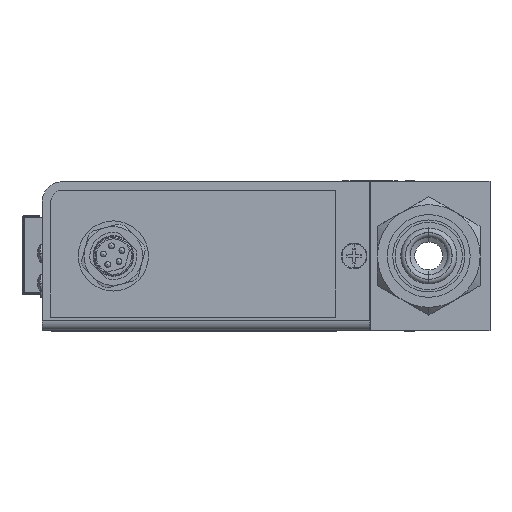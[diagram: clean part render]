
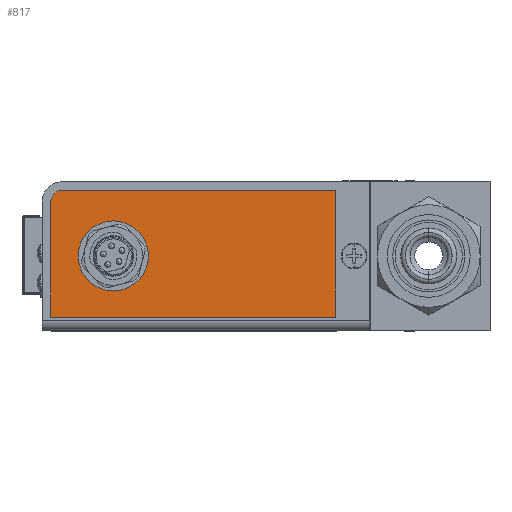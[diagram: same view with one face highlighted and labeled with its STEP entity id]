
A CAD part, left-side view. The second image highlights one B-rep face of the part: STEP entity #817.
In plain terms, the highlighted planar face has unit normal (-1, 0, 0).
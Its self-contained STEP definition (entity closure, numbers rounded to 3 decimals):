
#158 = AXIS2_PLACEMENT_3D ( 'NONE', #74145, #42271, #63989 ) ;
#817 = ADVANCED_FACE ( 'NONE', ( #140767, #85692 ), #120457, .T. ) ;
#1008 = ORIENTED_EDGE ( 'NONE', *, *, #78809, .T. ) ;
#1645 = CARTESIAN_POINT ( 'NONE',  ( -0.127, 64.325, -10.414 ) ) ;
#2180 = DIRECTION ( 'NONE',  ( -1., 0., 0. ) ) ;
#3066 = DIRECTION ( 'NONE',  ( 0., 0., -1. ) ) ;
#4439 = CARTESIAN_POINT ( 'NONE',  ( -0.127, 62.293, 11.176 ) ) ;
#6830 = CARTESIAN_POINT ( 'NONE',  ( -0.127, 15.811, 11.176 ) ) ;
#7419 = VERTEX_POINT ( 'NONE', #37282 ) ;
#7736 = LINE ( 'NONE', #138200, #15437 ) ;
#13393 = DIRECTION ( 'NONE',  ( -1., 0., 0. ) ) ;
#15437 = VECTOR ( 'NONE', #94694, 1000. ) ;
#15849 = AXIS2_PLACEMENT_3D ( 'NONE', #68451, #13393, #46721 ) ;
#15989 = EDGE_LOOP ( 'NONE', ( #1008, #113873, #83020, #76911, #93096 ) ) ;
#28638 = AXIS2_PLACEMENT_3D ( 'NONE', #109560, #54507, #129898 ) ;
#34645 = VERTEX_POINT ( 'NONE', #102726 ) ;
#35556 = VERTEX_POINT ( 'NONE', #37356 ) ;
#37282 = CARTESIAN_POINT ( 'NONE',  ( -0.127, 59.626, 0. ) ) ;
#37356 = CARTESIAN_POINT ( 'NONE',  ( -0.127, 15.811, -10.414 ) ) ;
#38505 = DIRECTION ( 'NONE',  ( 0., 1., 0. ) ) ;
#42271 = DIRECTION ( 'NONE',  ( -1., 0., 0. ) ) ;
#43683 = CIRCLE ( 'NONE', #143221, 5.969 ) ;
#46138 = EDGE_CURVE ( 'NONE', #7419, #68492, #57951, .T. ) ;
#46317 = EDGE_CURVE ( 'NONE', #34645, #134010, #109661, .T. ) ;
#46721 = DIRECTION ( 'NONE',  ( 0., -1., 0. ) ) ;
#46781 = EDGE_CURVE ( 'NONE', #68492, #7419, #43683, .T. ) ;
#49234 = LINE ( 'NONE', #71679, #132841 ) ;
#49433 = VERTEX_POINT ( 'NONE', #6830 ) ;
#54507 = DIRECTION ( 'NONE',  ( -1., 0., 0. ) ) ;
#57951 = CIRCLE ( 'NONE', #158, 5.969 ) ;
#60487 = EDGE_CURVE ( 'NONE', #49433, #94700, #81981, .T. ) ;
#63989 = DIRECTION ( 'NONE',  ( 0., -1., 0. ) ) ;
#67573 = EDGE_CURVE ( 'NONE', #94700, #34645, #78312, .T. ) ;
#68451 = CARTESIAN_POINT ( 'NONE',  ( -0.127, 62.293, 9.144 ) ) ;
#68492 = VERTEX_POINT ( 'NONE', #133477 ) ;
#71679 = CARTESIAN_POINT ( 'NONE',  ( -0.127, 15.811, -10.414 ) ) ;
#74145 = CARTESIAN_POINT ( 'NONE',  ( -0.127, 53.657, 0. ) ) ;
#76911 = ORIENTED_EDGE ( 'NONE', *, *, #67573, .T. ) ;
#78312 = CIRCLE ( 'NONE', #15849, 2.032 ) ;
#78809 = EDGE_CURVE ( 'NONE', #134010, #35556, #7736, .T. ) ;
#81981 = LINE ( 'NONE', #4439, #102475 ) ;
#82659 = ORIENTED_EDGE ( 'NONE', *, *, #46138, .F. ) ;
#83020 = ORIENTED_EDGE ( 'NONE', *, *, #60487, .T. ) ;
#83670 = CARTESIAN_POINT ( 'NONE',  ( -0.127, 64.325, -10.414 ) ) ;
#85692 = FACE_BOUND ( 'NONE', #99046, .T. ) ;
#93096 = ORIENTED_EDGE ( 'NONE', *, *, #46317, .T. ) ;
#94694 = DIRECTION ( 'NONE',  ( 0., -1., 0. ) ) ;
#94700 = VERTEX_POINT ( 'NONE', #120249 ) ;
#99046 = EDGE_LOOP ( 'NONE', ( #82659, #129550 ) ) ;
#99654 = VECTOR ( 'NONE', #3066, 1000. ) ;
#102475 = VECTOR ( 'NONE', #38505, 1000. ) ;
#102726 = CARTESIAN_POINT ( 'NONE',  ( -0.127, 64.325, 9.144 ) ) ;
#109560 = CARTESIAN_POINT ( 'NONE',  ( -0.127, 62.293, 9.144 ) ) ;
#109661 = LINE ( 'NONE', #1645, #99654 ) ;
#113873 = ORIENTED_EDGE ( 'NONE', *, *, #123904, .T. ) ;
#120249 = CARTESIAN_POINT ( 'NONE',  ( -0.127, 62.293, 11.176 ) ) ;
#120457 = PLANE ( 'NONE',  #28638 ) ;
#123904 = EDGE_CURVE ( 'NONE', #35556, #49433, #49234, .T. ) ;
#124618 = DIRECTION ( 'NONE',  ( 0., 0., 1. ) ) ;
#125353 = DIRECTION ( 'NONE',  ( 0., -1., 0. ) ) ;
#129550 = ORIENTED_EDGE ( 'NONE', *, *, #46781, .F. ) ;
#129898 = DIRECTION ( 'NONE',  ( 0., -1., 0. ) ) ;
#132841 = VECTOR ( 'NONE', #124618, 1000. ) ;
#133477 = CARTESIAN_POINT ( 'NONE',  ( -0.127, 47.688, 0. ) ) ;
#134010 = VERTEX_POINT ( 'NONE', #83670 ) ;
#136216 = CARTESIAN_POINT ( 'NONE',  ( -0.127, 53.657, 0. ) ) ;
#138200 = CARTESIAN_POINT ( 'NONE',  ( -0.127, 64.325, -10.414 ) ) ;
#140767 = FACE_OUTER_BOUND ( 'NONE', #15989, .T. ) ;
#143221 = AXIS2_PLACEMENT_3D ( 'NONE', #136216, #2180, #125353 ) ;
